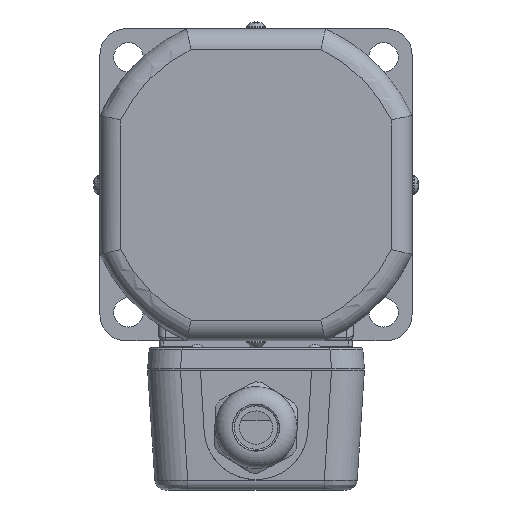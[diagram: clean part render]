
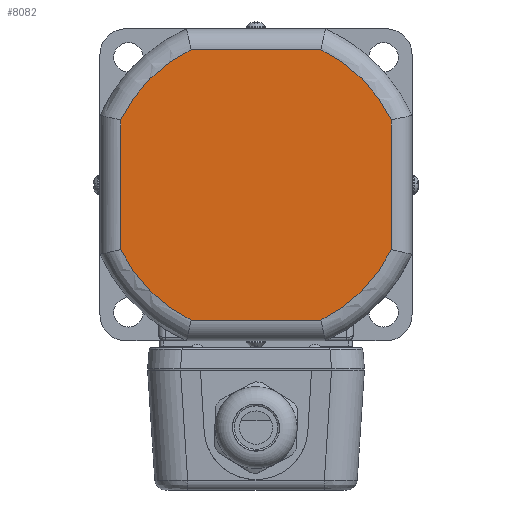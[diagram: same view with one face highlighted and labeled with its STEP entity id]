
A CAD part, left-side view. The second image highlights one B-rep face of the part: STEP entity #8082.
In plain terms, the highlighted planar face has unit normal (-1, 0, 0).
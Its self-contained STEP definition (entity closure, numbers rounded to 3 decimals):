
#788=FACE_OUTER_BOUND('',#1329,.T.);
#1329=EDGE_LOOP('',(#6562,#6563,#6564,#6565,#6566,#6567,#6568,#6569));
#1831=CIRCLE('',#8775,43.25);
#1832=CIRCLE('',#8776,43.25);
#1833=CIRCLE('',#8777,43.25);
#1834=CIRCLE('',#8778,43.25);
#2339=LINE('',#15245,#2917);
#2340=LINE('',#15249,#2918);
#2341=LINE('',#15253,#2919);
#2342=LINE('',#15257,#2920);
#2917=VECTOR('',#10543,37.393);
#2918=VECTOR('',#10546,37.393);
#2919=VECTOR('',#10549,37.393);
#2920=VECTOR('',#10552,37.393);
#3626=VERTEX_POINT('',#15243);
#3627=VERTEX_POINT('',#15244);
#3628=VERTEX_POINT('',#15246);
#3629=VERTEX_POINT('',#15248);
#3630=VERTEX_POINT('',#15250);
#3631=VERTEX_POINT('',#15252);
#3632=VERTEX_POINT('',#15254);
#3633=VERTEX_POINT('',#15256);
#4638=EDGE_CURVE('',#3626,#3627,#2339,.T.);
#4639=EDGE_CURVE('',#3628,#3626,#1831,.T.);
#4640=EDGE_CURVE('',#3629,#3628,#2340,.T.);
#4641=EDGE_CURVE('',#3630,#3629,#1832,.T.);
#4642=EDGE_CURVE('',#3631,#3630,#2341,.T.);
#4643=EDGE_CURVE('',#3632,#3631,#1833,.T.);
#4644=EDGE_CURVE('',#3633,#3632,#2342,.T.);
#4645=EDGE_CURVE('',#3627,#3633,#1834,.T.);
#6562=ORIENTED_EDGE('',*,*,#4638,.F.);
#6563=ORIENTED_EDGE('',*,*,#4639,.F.);
#6564=ORIENTED_EDGE('',*,*,#4640,.F.);
#6565=ORIENTED_EDGE('',*,*,#4641,.F.);
#6566=ORIENTED_EDGE('',*,*,#4642,.F.);
#6567=ORIENTED_EDGE('',*,*,#4643,.F.);
#6568=ORIENTED_EDGE('',*,*,#4644,.F.);
#6569=ORIENTED_EDGE('',*,*,#4645,.F.);
#7217=PLANE('',#8774);
#8082=ADVANCED_FACE('',(#788),#7217,.F.);
#8774=AXIS2_PLACEMENT_3D('',#15242,#10541,#10542);
#8775=AXIS2_PLACEMENT_3D('',#15247,#10544,#10545);
#8776=AXIS2_PLACEMENT_3D('',#15251,#10547,#10548);
#8777=AXIS2_PLACEMENT_3D('',#15255,#10550,#10551);
#8778=AXIS2_PLACEMENT_3D('',#15258,#10553,#10554);
#10541=DIRECTION('center_axis',(1.,0.,0.));
#10542=DIRECTION('ref_axis',(0.,0.,-1.));
#10543=DIRECTION('',(0.,0.,1.));
#10544=DIRECTION('center_axis',(1.,0.,0.));
#10545=DIRECTION('ref_axis',(0.,0.707,-0.707));
#10546=DIRECTION('',(0.,1.,0.));
#10547=DIRECTION('center_axis',(1.,0.,0.));
#10548=DIRECTION('ref_axis',(0.,-0.707,-0.707));
#10549=DIRECTION('',(0.,0.,-1.));
#10550=DIRECTION('center_axis',(1.,0.,0.));
#10551=DIRECTION('ref_axis',(0.,-0.707,0.707));
#10552=DIRECTION('',(0.,-1.,0.));
#10553=DIRECTION('center_axis',(1.,0.,0.));
#10554=DIRECTION('ref_axis',(0.,0.707,0.707));
#15242=CARTESIAN_POINT('Origin',(-17.8,0.,
0.));
#15243=CARTESIAN_POINT('',(-17.8,39.,-18.697));
#15244=CARTESIAN_POINT('',(-17.8,39.,18.697));
#15245=CARTESIAN_POINT('',(-17.8,39.,-18.697));
#15246=CARTESIAN_POINT('',(-17.8,18.697,-39.));
#15247=CARTESIAN_POINT('Origin',(-17.8,0.,
0.));
#15248=CARTESIAN_POINT('',(-17.8,-18.697,-39.));
#15249=CARTESIAN_POINT('',(-17.8,-18.697,-39.));
#15250=CARTESIAN_POINT('',(-17.8,-39.,-18.697));
#15251=CARTESIAN_POINT('Origin',(-17.8,0.,
0.));
#15252=CARTESIAN_POINT('',(-17.8,-39.,18.697));
#15253=CARTESIAN_POINT('',(-17.8,-39.,18.697));
#15254=CARTESIAN_POINT('',(-17.8,-18.697,39.));
#15255=CARTESIAN_POINT('Origin',(-17.8,0.,
0.));
#15256=CARTESIAN_POINT('',(-17.8,18.697,39.));
#15257=CARTESIAN_POINT('',(-17.8,18.697,39.));
#15258=CARTESIAN_POINT('Origin',(-17.8,0.,
0.));
